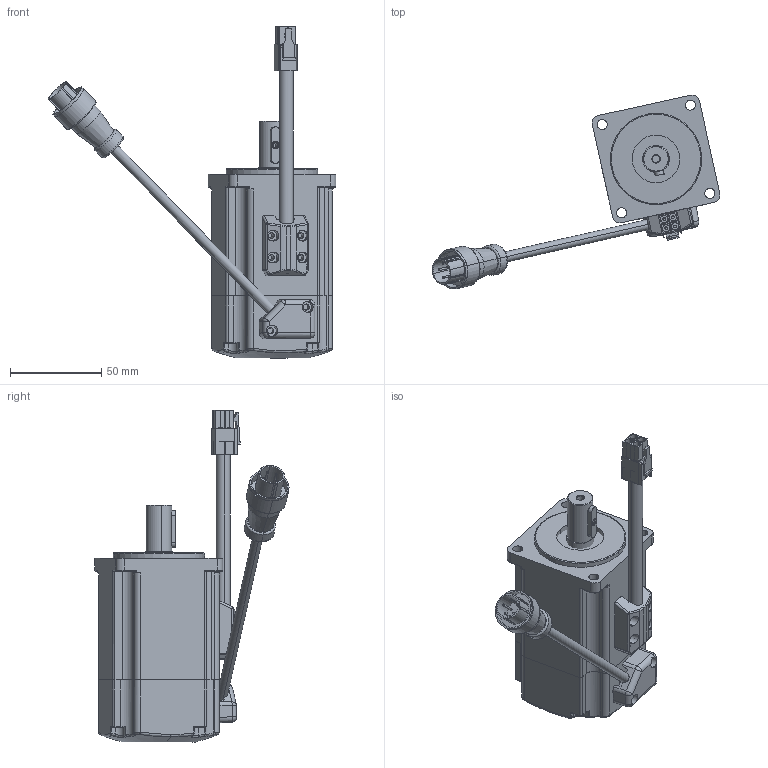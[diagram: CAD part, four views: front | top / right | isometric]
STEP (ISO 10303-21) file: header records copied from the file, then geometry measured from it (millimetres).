
FILE_DESCRIPTION((''),'2;1');
FILE_NAME('60-5P-200W_ASM','2017-11-17T',('Administrator'),(''),'PRO/ENGINEER BY PARAMETRIC TECHNOLOGY CORPORATION, 2010280','PRO/ENGINEER BY PARAMETRIC TECHNOLOGY CORPORATION, 2010280','');
FILE_SCHEMA(('CONFIG_CONTROL_DESIGN'));
Length unit declared in the file: millimetre
Products named in the file (22): PRT0001_1; PRT0002_1; ASM0003_ASM_ASM_ASM_1_ASM; MANIFOLD_SOLID_BREP_3640_1_1; 04-0302-0004_3_6_ASM_ASM_ASM_1_ASM; QIANDUANGAI-60-5P_ASM_2_ASM_2_A_ASM; PRT0004_1; HOUZHAO-60-5P_ASM_9_ASM_1_ASM_A_ASM; PRT0005_1; PRT0006_1; PRT0007_1; DIANYUANXIAN-4_ASM_2_ASM_1_ASM__ASM; 05-0201-0069_2_1_1_1; PRT0008_1; PRT0009_1; BIANMAQIXIAN-N21_ASM_3_ASM_1_AS_ASM; ASM0002_ASM_ASM_ASM_1_ASM; ASM0001_ASM_ASM_ASM_1_ASM; ASM0001_ASM_ASM_1_ASM; 605P-400W_ASM_ASM_ASM_1_ASM; 60-5P-400W_ASM_1_ASM; 60-5P-200W_ASM
Assembly tree (21 placements, depth 9):
  60-5P-200W_ASM
    60-5P-400W_ASM_1_ASM
      605P-400W_ASM_ASM_ASM_1_ASM
        ASM0001_ASM_ASM_1_ASM
          ASM0001_ASM_ASM_ASM_1_ASM
            ASM0002_ASM_ASM_ASM_1_ASM
              ASM0003_ASM_ASM_ASM_1_ASM
                PRT0001_1
                PRT0002_1
              QIANDUANGAI-60-5P_ASM_2_ASM_2_A_ASM
                04-0302-0004_3_6_ASM_ASM_ASM_1_ASM
                  MANIFOLD_SOLID_BREP_3640_1_1
              HOUZHAO-60-5P_ASM_9_ASM_1_ASM_A_ASM
                PRT0004_1
              DIANYUANXIAN-4_ASM_2_ASM_1_ASM__ASM
                PRT0005_1
                PRT0006_1
                PRT0007_1
              BIANMAQIXIAN-N21_ASM_3_ASM_1_AS_ASM
                05-0201-0069_2_1_1_1
                PRT0008_1
                PRT0009_1
Bounding box: 157.56 x 106.2 x 181.7 mm (x, y, z)
Volume: 343076.2 mm3; surface area: 65827.2 mm2
Topology: 10 solids, 15 shells, 708 faces, 1792 edges, 1139 vertices
Faces by surface type: plane 301, cylinder 277, torus 52, bspline 49, sphere 17, cone 12
Entity records: 24318 total; most frequent: CARTESIAN_POINT 6811, DIRECTION 3663, ORIENTED_EDGE 3548, EDGE_CURVE 1774, AXIS2_PLACEMENT_3D 1377, VERTEX_POINT 1139, VECTOR 909, LINE 909
